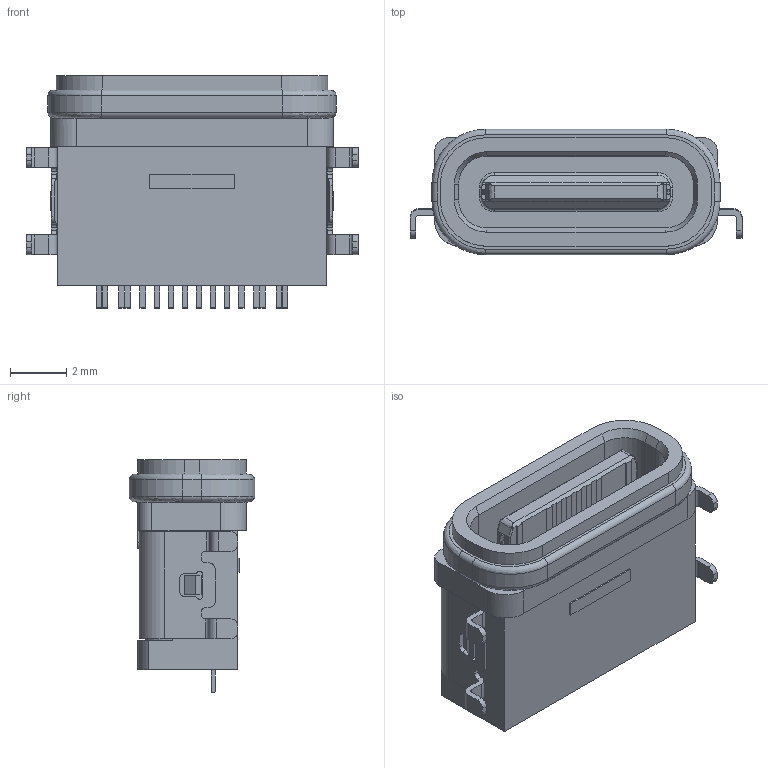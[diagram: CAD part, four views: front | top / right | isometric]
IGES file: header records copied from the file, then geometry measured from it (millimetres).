
Start section:  PTC IGES file: 016.igs
Global section: file name: 016.igs; native system: Creo Parametric by PTC Inc.; preprocessor: 2019080; author: Administrator; organization: Unknown; date: 20230418.143137; units: millimetre
Bounding box: 11.8 x 4.46 x 8.25 mm (x, y, z)
Surface area: 510.9 mm2 (no closed solid volume)
Topology: 0 solids, 0 shells, 526 faces, 2828 edges, 2828 vertices
Faces by surface type: bspline 344, revolution 182
